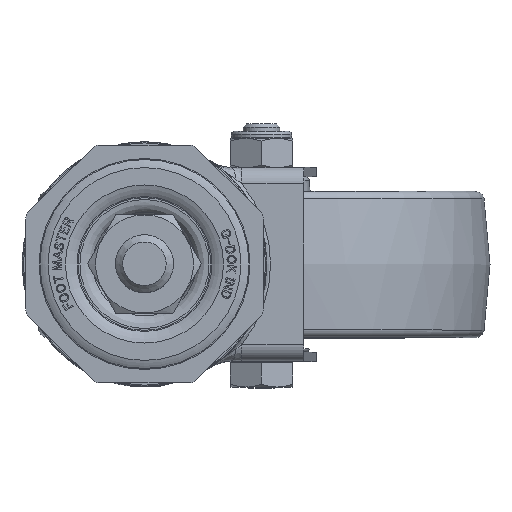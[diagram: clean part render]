
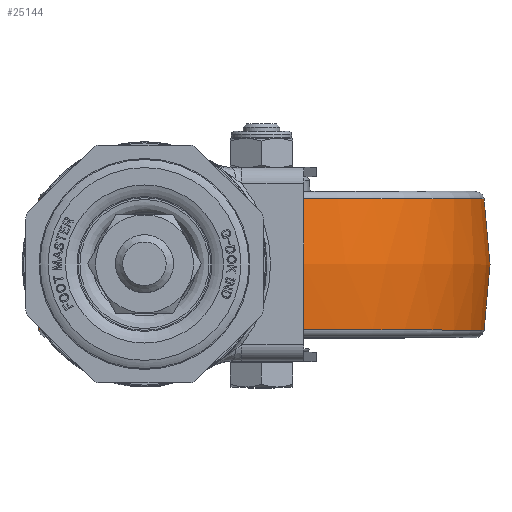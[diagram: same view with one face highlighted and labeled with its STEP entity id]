
A CAD part, top view. The second image highlights one B-rep face of the part: STEP entity #25144.
In plain terms, the highlighted free-form (B-spline) face has degree [2, 2] with [3, 9] control points.
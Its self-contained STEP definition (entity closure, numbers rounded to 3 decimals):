
#15=(
BOUNDED_SURFACE()
B_SPLINE_SURFACE(2,2,((#44003,#44004,#44005,#44006,#44007,#44008,#44009,
#44010,#44011),(#44012,#44013,#44014,#44015,#44016,#44017,#44018,#44019,
#44020),(#44021,#44022,#44023,#44024,#44025,#44026,#44027,#44028,#44029)),
 .UNSPECIFIED.,.F.,.T.,.F.)
B_SPLINE_SURFACE_WITH_KNOTS((3,3),(3,2,2,2,3),(-0.18,0.18),
(-3.142,-1.571,0.,1.571,3.142),
 .UNSPECIFIED.)
GEOMETRIC_REPRESENTATION_ITEM()
RATIONAL_B_SPLINE_SURFACE(((1.,0.707,1.,0.707,1.,
0.707,1.,0.707,1.),(0.984,0.696,
0.984,0.696,0.984,0.696,
0.984,0.696,0.984),(1.,0.707,
1.,0.707,1.,0.707,1.,0.707,1.)))
REPRESENTATION_ITEM('')
SURFACE()
);
#7331=FACE_OUTER_BOUND('',#8802,.T.);
#8802=EDGE_LOOP('',(#23681,#23682,#23683,#23684));
#9137=CIRCLE('',#26404,60.876);
#9139=CIRCLE('',#26406,60.876);
#9140=CIRCLE('',#26407,100.);
#12615=VERTEX_POINT('',#44000);
#12616=VERTEX_POINT('',#44030);
#16307=EDGE_CURVE('',#12615,#12615,#9137,.T.);
#16309=EDGE_CURVE('',#12616,#12616,#9139,.T.);
#16310=EDGE_CURVE('',#12616,#12615,#9140,.T.);
#23681=ORIENTED_EDGE('',*,*,#16309,.F.);
#23682=ORIENTED_EDGE('',*,*,#16310,.T.);
#23683=ORIENTED_EDGE('',*,*,#16307,.T.);
#23684=ORIENTED_EDGE('',*,*,#16310,.F.);
#25144=ADVANCED_FACE('',(#7331),#15,.F.);
#26404=AXIS2_PLACEMENT_3D('',#44001,#31120,#31121);
#26406=AXIS2_PLACEMENT_3D('',#44031,#31124,#31125);
#26407=AXIS2_PLACEMENT_3D('',#44032,#31126,#31127);
#31120=DIRECTION('center_axis',(0.,-1.,0.));
#31121=DIRECTION('ref_axis',(0.,0.,
1.));
#31124=DIRECTION('center_axis',(0.,-1.,0.));
#31125=DIRECTION('ref_axis',(0.,0.,
1.));
#31126=DIRECTION('center_axis',(1.,0.,0.));
#31127=DIRECTION('ref_axis',(0.,0.,
-1.));
#44000=CARTESIAN_POINT('',(32.,17.949,-157.176));
#44001=CARTESIAN_POINT('Origin',(32.,17.949,-96.3));
#44003=CARTESIAN_POINT('Ctrl Pts',(32.,17.949,-157.176));
#44004=CARTESIAN_POINT('Ctrl Pts',(92.876,17.949,-157.176));
#44005=CARTESIAN_POINT('Ctrl Pts',(92.876,17.949,-96.3));
#44006=CARTESIAN_POINT('Ctrl Pts',(92.876,17.949,-35.424));
#44007=CARTESIAN_POINT('Ctrl Pts',(32.,17.949,-35.424));
#44008=CARTESIAN_POINT('Ctrl Pts',(-28.876,17.949,-35.424));
#44009=CARTESIAN_POINT('Ctrl Pts',(-28.876,17.949,-96.3));
#44010=CARTESIAN_POINT('Ctrl Pts',(-28.876,17.949,-157.176));
#44011=CARTESIAN_POINT('Ctrl Pts',(32.,17.949,-157.176));
#44012=CARTESIAN_POINT('Ctrl Pts',(32.,0.,
-160.451));
#44013=CARTESIAN_POINT('Ctrl Pts',(96.151,0.,
-160.451));
#44014=CARTESIAN_POINT('Ctrl Pts',(96.151,0.,
-96.3));
#44015=CARTESIAN_POINT('Ctrl Pts',(96.151,0.,
-32.149));
#44016=CARTESIAN_POINT('Ctrl Pts',(32.,0.,
-32.149));
#44017=CARTESIAN_POINT('Ctrl Pts',(-32.151,0.,
-32.149));
#44018=CARTESIAN_POINT('Ctrl Pts',(-32.151,0.,
-96.3));
#44019=CARTESIAN_POINT('Ctrl Pts',(-32.151,0.,
-160.451));
#44020=CARTESIAN_POINT('Ctrl Pts',(32.,0.,
-160.451));
#44021=CARTESIAN_POINT('Ctrl Pts',(32.,-17.949,-157.176));
#44022=CARTESIAN_POINT('Ctrl Pts',(92.876,-17.949,-157.176));
#44023=CARTESIAN_POINT('Ctrl Pts',(92.876,-17.949,-96.3));
#44024=CARTESIAN_POINT('Ctrl Pts',(92.876,-17.949,-35.424));
#44025=CARTESIAN_POINT('Ctrl Pts',(32.,-17.949,-35.424));
#44026=CARTESIAN_POINT('Ctrl Pts',(-28.876,-17.949,
-35.424));
#44027=CARTESIAN_POINT('Ctrl Pts',(-28.876,-17.949,
-96.3));
#44028=CARTESIAN_POINT('Ctrl Pts',(-28.876,-17.949,-157.176));
#44029=CARTESIAN_POINT('Ctrl Pts',(32.,-17.949,-157.176));
#44030=CARTESIAN_POINT('',(32.,-17.949,-157.176));
#44031=CARTESIAN_POINT('Origin',(32.,-17.949,-96.3));
#44032=CARTESIAN_POINT('Origin',(32.,0.,-58.8));
